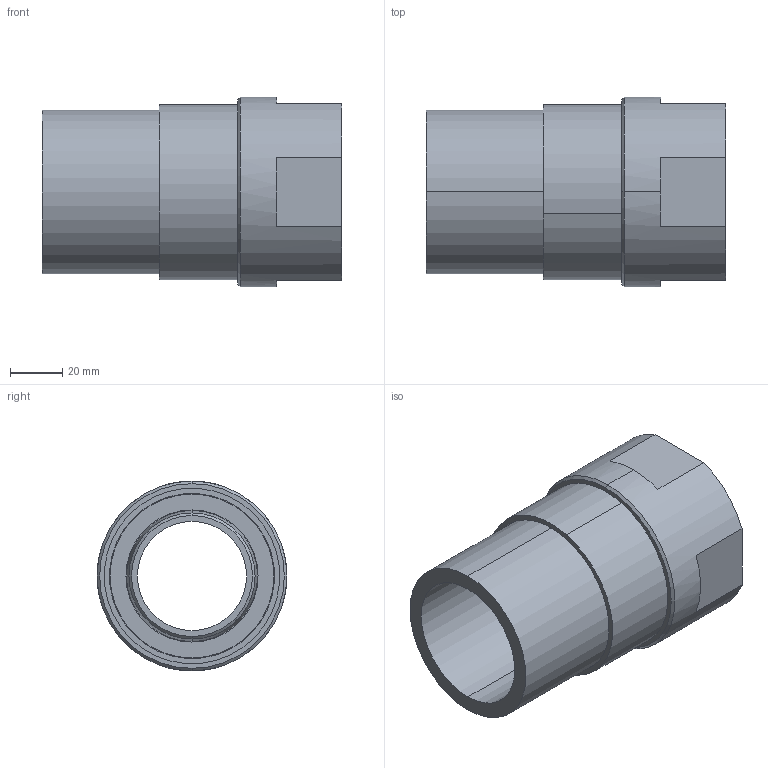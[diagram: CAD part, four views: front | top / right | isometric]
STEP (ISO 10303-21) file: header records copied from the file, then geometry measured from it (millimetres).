
FILE_DESCRIPTION (( 'STEP AP214' ), '1' );
FILE_NAME ('KP_C17-63F.step', '2012-09-03T10:40:37', ( 'robinj' ), ( 'Microsoft' ), 'SwSTEP 2.0', 'SolidWorks 2012', '' );
FILE_SCHEMA (( 'AUTOMOTIVE_DESIGN' ));
Length unit declared in the file: millimetre
Products named in the file (1): KP_C17-63F
Bounding box: 115 x 73 x 73 mm (x, y, z)
Volume: 178058.4 mm3; surface area: 71627.2 mm2
Topology: 3 solids, 3 shells, 54 faces, 116 edges, 72 vertices
Faces by surface type: cylinder 18, plane 18, cone 12, torus 6
Entity records: 2140 total; most frequent: DIRECTION 296, CARTESIAN_POINT 243, ORIENTED_EDGE 232, AXIS2_PLACEMENT_3D 125, EDGE_CURVE 116, VERTEX_POINT 72, CIRCLE 70, EDGE_LOOP 64
